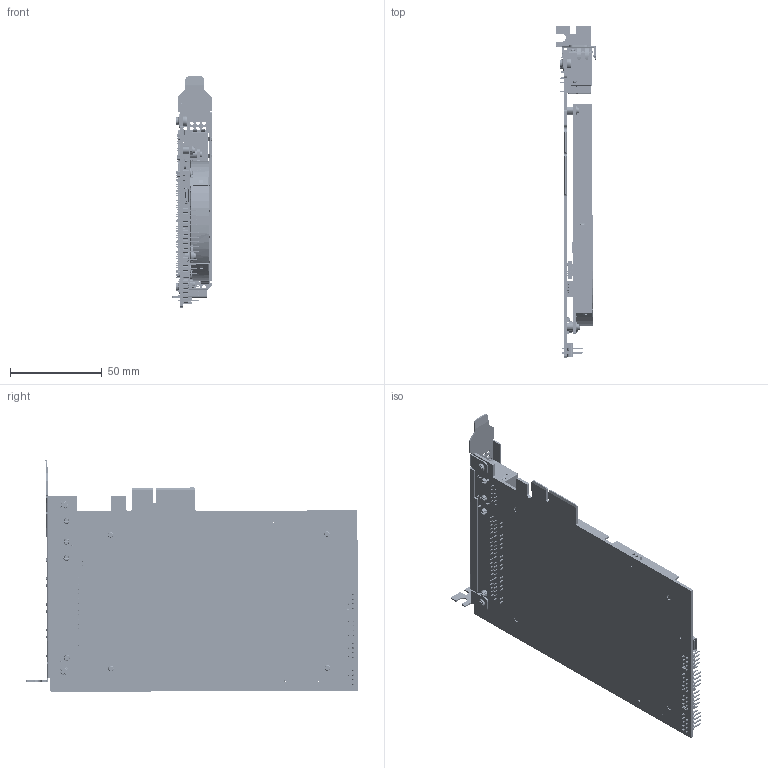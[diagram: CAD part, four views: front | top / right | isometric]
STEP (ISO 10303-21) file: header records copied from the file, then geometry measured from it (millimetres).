
FILE_DESCRIPTION((''),'2;1');
FILE_NAME('MV-20330-REV10_ASM','2023-05-23T10:19:46',('huguozhe'),(''),'CREO PARAMETRIC BY PTC INC, 2020044','CREO PARAMETRIC BY PTC INC, 2020044','');
FILE_SCHEMA(('AUTOMOTIVE_DESIGN { 1 0 10303 214 1 1 1 1 }'));
Products named in the file (27): MV-20330-REV10; DE-11-030344; SC-P0M3X4-GB818; 101301147; 101301030; 101400273; 101301392; ST-D4X3D3X1_4-F2X3-CU-SMT; 100600542; 101305038; 101301447; 101303165; 101305301; SVA2500-HEAT-SINK_17; 8002-CLS-M2-0_1; SVA2500_HEATSINK-ASM_ASM; 101800774_1_1_2_1; 101800774_1_1_2_2; 101800774_1_1_2_3; 101800774_1_1_2_4; 101800774_1_1_2_5; 101800774_1_1_2_6_AF0; 101800774_1_1_2_AF0_ASM_1_ASM; ASM0003_AF0_ASM_1_ASM; SVA2500-HEAT_SINK-ASM_ASM; SC-TWM2X4; MV-20330-REV10_ASM
Assembly tree (38 placements, depth 5):
  MV-20330-REV10_ASM
    MV-20330-REV10
    DE-11-030344
    SC-P0M3X4-GB818  x2
    101301147
    101301030
    101400273  x2
    101301392
    ST-D4X3D3X1_4-F2X3-CU-SMT  x4
    100600542
    101305038
    101301447
    101303165  x2
    101305301  x2
    SVA2500-HEAT_SINK-ASM_ASM
      SVA2500_HEATSINK-ASM_ASM
        SVA2500-HEAT-SINK_17
        8002-CLS-M2-0_1
      ASM0003_AF0_ASM_1_ASM
        101800774_1_1_2_AF0_ASM_1_ASM
          101800774_1_1_2_1
          101800774_1_1_2_2
          101800774_1_1_2_3
          101800774_1_1_2_4
          101800774_1_1_2_5
          101800774_1_1_2_6_AF0
    SC-TWM2X4  x6
Bounding box: 21.81 x 181 x 126.3 mm (x, y, z)
Volume: 65784 mm3; surface area: 139330.6 mm2
Topology: 110 solids, 166 shells, 14422 faces, 40251 edges, 25919 vertices
Faces by surface type: plane 11129, cylinder 2769, bspline 197, torus 169, cone 122, sphere 28, revolution 8
Entity records: 501738 total; most frequent: CARTESIAN_POINT 85068, ORIENTED_EDGE 74123, DIRECTION 67631, EDGE_CURVE 37115, VECTOR 30556, LINE 30556, VERTEX_POINT 23992, AXIS2_PLACEMENT_3D 18535
